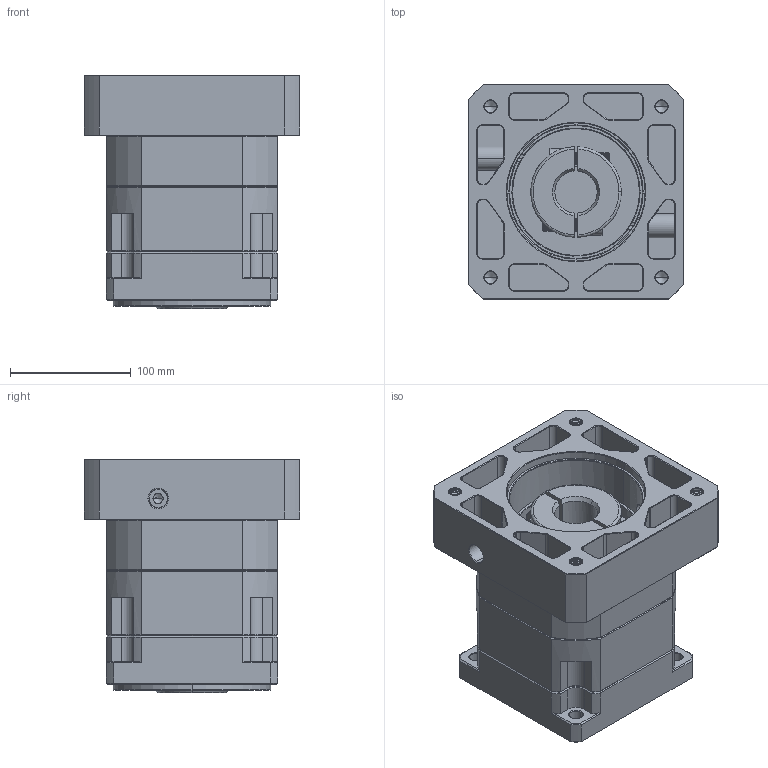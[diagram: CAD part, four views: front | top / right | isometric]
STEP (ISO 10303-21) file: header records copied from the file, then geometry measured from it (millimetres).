
FILE_DESCRIPTION (( 'STEP AP214' ), '1' );
FILE_NAME ('ZB142A-K35-L1-P2-35-114.3-200-M12.step', '2023-09-01T11:46:18', ( '' ), ( '' ), 'SwSTEP 2.0', 'SolidWorks 2016', '' );
FILE_SCHEMA (( 'AUTOMOTIVE_DESIGN' ));
Length unit declared in the file: millimetre
Products named in the file (1): ZB142A-K35-L1-P2-35-114.3-200-M12
Bounding box: 178 x 178 x 193.2 mm (x, y, z)
Volume: 3403100.5 mm3; surface area: 345818.7 mm2
Topology: 6 solids, 6 shells, 2415 faces, 6436 edges, 4132 vertices
Faces by surface type: plane 1186, cylinder 420, bspline 404, cone 385, torus 20
Entity records: 129857 total; most frequent: CARTESIAN_POINT 46028, ORIENTED_EDGE 12816, DIRECTION 10444, EDGE_CURVE 6408, VERTEX_POINT 4132, LINE 4114, VECTOR 4114, AXIS2_PLACEMENT_3D 3165
